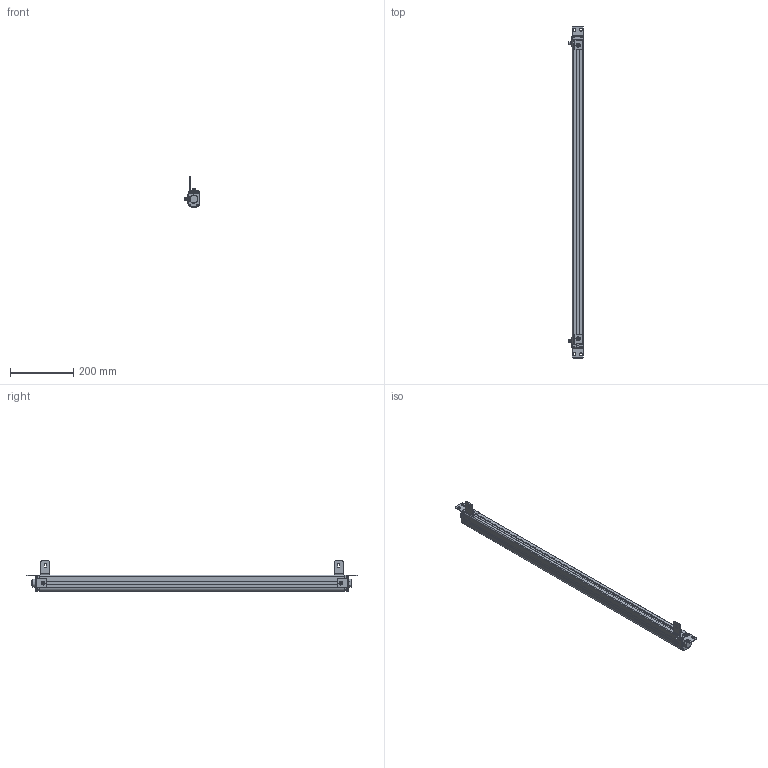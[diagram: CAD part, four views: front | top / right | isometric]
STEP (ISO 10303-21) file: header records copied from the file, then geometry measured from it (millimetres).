
FILE_DESCRIPTION((''),'2;1');
FILE_NAME('ESN--000_ASM','2021-08-11T16:26:30',('18720616900'),(''),'CREO PARAMETRIC BY PTC INC, 2019010','CREO PARAMETRIC BY PTC INC, 2019010','');
FILE_SCHEMA(('CONFIG_CONTROL_DESIGN'));
Length unit declared in the file: millimetre
Products named in the file (22): 00; 000; _0001; 4000; 4--0001; ESN_40001_ASM; L10001; M6-8--0001; M6-1--00; M6-1-00; M6-80001_ASM; L1--0001_ASM; _0002; 0005; ST-3-120001; H1--000; H1--0001_ASM; H1--0003_ASM; ESN--000_ASM
Assembly tree (34 placements, depth 4):
  ESN--000_ASM
    00
    000
    _0001
    000
    ESN_40001_ASM
      4000
      4--0001  x4
    L1--0001_ASM  x2
      L10001
      M6-80001_ASM
        M6-8--0001
        M6-1--00
        M6-1-00
        00
    _0002
    0005
    ST-3-120001  x8
    H1--0001_ASM
      H1--000
      M6-80001_ASM
        M6-8--0001
        M6-1--00
        M6-1-00
        00
    H1--0003_ASM
      H1--000
      M6-80001_ASM
        M6-8--0001
        M6-1--00
        M6-1-00
        00
Bounding box: 46.5 x 1047 x 94.95 mm (x, y, z)
Volume: 1494897.9 mm3; surface area: 315660.4 mm2
Topology: 39 solids, 39 shells, 1727 faces, 4555 edges, 2925 vertices
Faces by surface type: plane 541, cylinder 404, bspline 362, cone 291, torus 105, sphere 24
Entity records: 45714 total; most frequent: CARTESIAN_POINT 24222, ORIENTED_EDGE 4766, DIRECTION 3842, EDGE_CURVE 2383, VERTEX_POINT 1546, AXIS2_PLACEMENT_3D 1400, VECTOR 1042, LINE 1042
